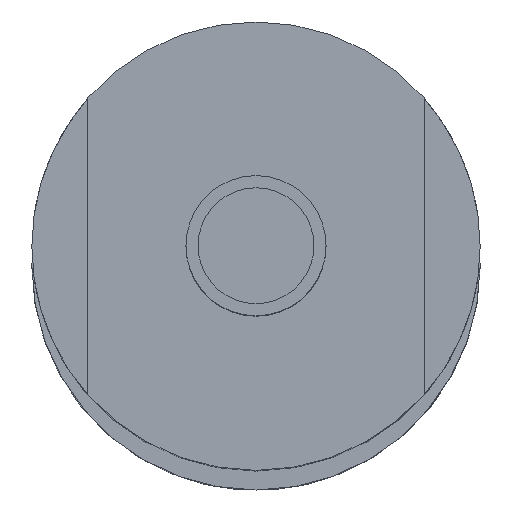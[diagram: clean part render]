
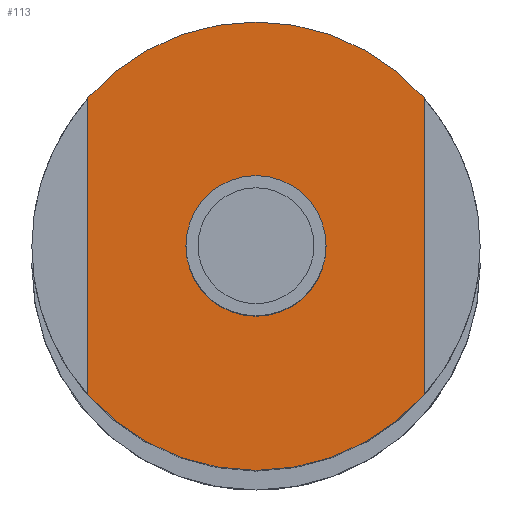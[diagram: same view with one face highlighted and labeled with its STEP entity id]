
A CAD part, top view. The second image highlights one B-rep face of the part: STEP entity #113.
In plain terms, the highlighted planar face has unit normal (0, 0, 1).
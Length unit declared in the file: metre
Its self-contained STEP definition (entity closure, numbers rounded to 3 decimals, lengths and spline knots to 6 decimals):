
#113=ADVANCED_FACE('17:304',(#222,#223),#224,.T.);
#222=FACE_BOUND('',#340,.T.);
#223=FACE_OUTER_BOUND('',#341,.T.);
#224=PLANE('',#342);
#340=EDGE_LOOP('',(#550,#551));
#341=EDGE_LOOP('',(#552,#553,#554,#555,#556,#557));
#342=AXIS2_PLACEMENT_3D('',#558,#559,#560);
#550=ORIENTED_EDGE('',*,*,#643,.T.);
#551=ORIENTED_EDGE('',*,*,#714,.T.);
#552=ORIENTED_EDGE('',*,*,#716,.F.);
#553=ORIENTED_EDGE('',*,*,#653,.F.);
#554=ORIENTED_EDGE('',*,*,#652,.F.);
#555=ORIENTED_EDGE('',*,*,#701,.T.);
#556=ORIENTED_EDGE('',*,*,#708,.F.);
#557=ORIENTED_EDGE('',*,*,#707,.F.);
#558=CARTESIAN_POINT('',(0.,0.,0.329));
#559=DIRECTION('',(0.0,0.0,1.0));
#560=DIRECTION('',(1.0,0.0,0.0));
#643=EDGE_CURVE('19:2123',#759,#756,#760,.F.);
#652=EDGE_CURVE('17:354',#774,#776,#777,.F.);
#653=EDGE_CURVE('17:345',#776,#778,#779,.F.);
#701=EDGE_CURVE('17:844',#774,#849,#850,.T.);
#707=EDGE_CURVE('17:351',#857,#859,#860,.F.);
#708=EDGE_CURVE('17:342',#859,#849,#861,.F.);
#714=EDGE_CURVE('',#756,#759,#867,.F.);
#716=EDGE_CURVE('17:790',#778,#857,#869,.F.);
#756=VERTEX_POINT('',#933);
#759=VERTEX_POINT('',#937);
#760=CIRCLE('',#938,0.0025);
#774=VERTEX_POINT('',#955);
#776=VERTEX_POINT('',#958);
#777=CIRCLE('',#959,0.008);
#778=VERTEX_POINT('',#960);
#779=CIRCLE('',#961,0.008);
#849=VERTEX_POINT('',#1046);
#850=LINE('',#1047,#1048);
#857=VERTEX_POINT('',#1057);
#859=VERTEX_POINT('',#1060);
#860=CIRCLE('',#1061,0.008);
#861=CIRCLE('',#1062,0.008);
#867=CIRCLE('',#1068,0.0025);
#869=LINE('',#1070,#1071);
#933=CARTESIAN_POINT('',(0.00239,0.000133,0.329));
#937=CARTESIAN_POINT('',(-0.00261,0.000133,0.329));
#938=AXIS2_PLACEMENT_3D('',#1144,#1145,#1146);
#955=CARTESIAN_POINT('',(-0.00611,0.005425,0.329));
#958=CARTESIAN_POINT('',(-0.00011,0.008133,0.329));
#959=AXIS2_PLACEMENT_3D('',#1160,#1161,#1162);
#960=CARTESIAN_POINT('',(0.00589,0.005425,0.329));
#961=AXIS2_PLACEMENT_3D('',#1163,#1164,#1165);
#1046=CARTESIAN_POINT('',(-0.00611,-0.005158,0.329));
#1047=CARTESIAN_POINT('',(-0.00611,0.000067,0.329));
#1048=VECTOR('',#1235,1.0);
#1057=CARTESIAN_POINT('',(0.00589,-0.005158,0.329));
#1060=CARTESIAN_POINT('',(-0.00011,-0.007867,0.329));
#1061=AXIS2_PLACEMENT_3D('',#1242,#1243,#1244);
#1062=AXIS2_PLACEMENT_3D('',#1245,#1246,#1247);
#1068=AXIS2_PLACEMENT_3D('',#1257,#1258,#1259);
#1070=CARTESIAN_POINT('',(0.00589,0.000067,0.329));
#1071=VECTOR('',#1260,1.0);
#1144=CARTESIAN_POINT('',(-0.00011,0.000133,0.329));
#1145=DIRECTION('',(0.0,0.0,1.0));
#1146=DIRECTION('',(1.0,0.0,-0.0));
#1160=CARTESIAN_POINT('',(-0.00011,0.000133,0.329));
#1161=DIRECTION('',(0.0,0.0,1.0));
#1162=DIRECTION('',(1.0,0.0,0.0));
#1163=CARTESIAN_POINT('',(-0.00011,0.000133,0.329));
#1164=DIRECTION('',(0.0,0.0,1.0));
#1165=DIRECTION('',(1.0,0.0,0.0));
#1235=DIRECTION('',(0.,-1.0,0.0));
#1242=CARTESIAN_POINT('',(-0.00011,0.000133,0.329));
#1243=DIRECTION('',(0.0,0.0,1.0));
#1244=DIRECTION('',(1.0,0.0,0.0));
#1245=CARTESIAN_POINT('',(-0.00011,0.000133,0.329));
#1246=DIRECTION('',(0.0,0.0,1.0));
#1247=DIRECTION('',(1.0,0.0,0.0));
#1257=CARTESIAN_POINT('',(-0.00011,0.000133,0.329));
#1258=DIRECTION('',(0.0,0.0,1.0));
#1259=DIRECTION('',(1.0,0.0,-0.0));
#1260=DIRECTION('',(0.,1.0,0.0));
